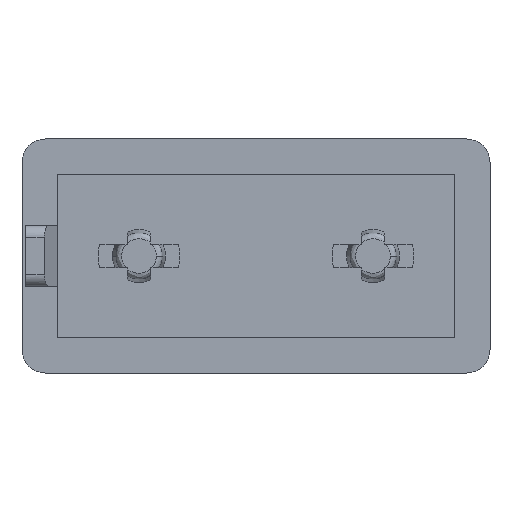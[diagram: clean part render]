
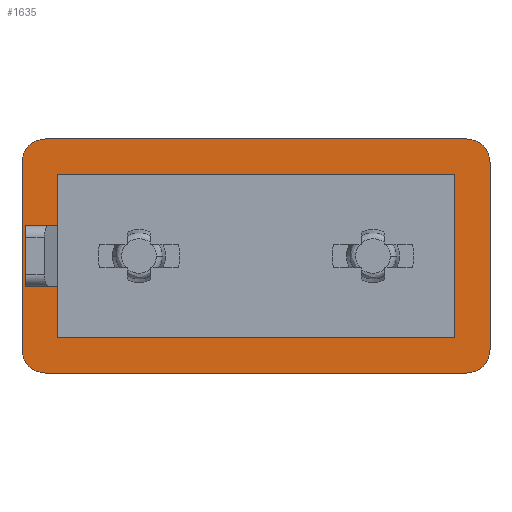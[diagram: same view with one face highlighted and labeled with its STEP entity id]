
A CAD part, front view. The second image highlights one B-rep face of the part: STEP entity #1635.
In plain terms, the highlighted planar face has unit normal (0, -1, 0).
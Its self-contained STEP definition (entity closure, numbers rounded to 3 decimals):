
#46 = VECTOR ( 'NONE', #1844, 1000. ) ;
#59 = AXIS2_PLACEMENT_3D ( 'NONE', #2890, #2808, #2833 ) ;
#77 = LINE ( 'NONE', #1681, #293 ) ;
#80 = CIRCLE ( 'NONE', #1576, 2. ) ;
#81 = CARTESIAN_POINT ( 'NONE',  ( -10., 1.771, 12.271 ) ) ;
#100 = VERTEX_POINT ( 'NONE', #1133 ) ;
#125 = CIRCLE ( 'NONE', #2638, 2. ) ;
#136 = CARTESIAN_POINT ( 'NONE',  ( -8., 1.771, 14.271 ) ) ;
#144 = CARTESIAN_POINT ( 'NONE',  ( -7., 1.771, 11.271 ) ) ;
#150 = DIRECTION ( 'NONE',  ( 1., 0., 0. ) ) ;
#170 = VECTOR ( 'NONE', #1743, 1000. ) ;
#174 = ORIENTED_EDGE ( 'NONE', *, *, #1776, .T. ) ;
#191 = VERTEX_POINT ( 'NONE', #2428 ) ;
#200 = EDGE_CURVE ( 'NONE', #1401, #2805, #1936, .T. ) ;
#214 = VERTEX_POINT ( 'NONE', #144 ) ;
#255 = VECTOR ( 'NONE', #292, 1000. ) ;
#270 = DIRECTION ( 'NONE',  ( 1., 0., 0. ) ) ;
#292 = DIRECTION ( 'NONE',  ( 1., 0., 0. ) ) ;
#293 = VECTOR ( 'NONE', #838, 1000. ) ;
#342 = CARTESIAN_POINT ( 'NONE',  ( 28., 1.771, 12.271 ) ) ;
#344 = CARTESIAN_POINT ( 'NONE',  ( 30., 1.771, 14.271 ) ) ;
#360 = VECTOR ( 'NONE', #1594, 1000. ) ;
#366 = LINE ( 'NONE', #1323, #2750 ) ;
#373 = VERTEX_POINT ( 'NONE', #2518 ) ;
#415 = CIRCLE ( 'NONE', #59, 2. ) ;
#432 = DIRECTION ( 'NONE',  ( 0., -1., 0. ) ) ;
#434 = VERTEX_POINT ( 'NONE', #649 ) ;
#466 = CARTESIAN_POINT ( 'NONE',  ( 27., 1.771, -5.729 ) ) ;
#470 = CARTESIAN_POINT ( 'NONE',  ( 27., 1.771, 11.271 ) ) ;
#500 = CARTESIAN_POINT ( 'NONE',  ( -7., 1.771, -5.729 ) ) ;
#634 = ORIENTED_EDGE ( 'NONE', *, *, #794, .T. ) ;
#640 = CARTESIAN_POINT ( 'NONE',  ( -8., 1.771, 12.271 ) ) ;
#649 = CARTESIAN_POINT ( 'NONE',  ( 30., 1.771, -3.729 ) ) ;
#691 = VERTEX_POINT ( 'NONE', #2481 ) ;
#711 = ORIENTED_EDGE ( 'NONE', *, *, #3022, .F. ) ;
#765 = VECTOR ( 'NONE', #2178, 1000. ) ;
#774 = DIRECTION ( 'NONE',  ( 1., 0., 0. ) ) ;
#792 = EDGE_CURVE ( 'NONE', #373, #1180, #2054, .T. ) ;
#794 = EDGE_CURVE ( 'NONE', #860, #922, #2859, .T. ) ;
#827 = ORIENTED_EDGE ( 'NONE', *, *, #200, .T. ) ;
#838 = DIRECTION ( 'NONE',  ( 1., 0., 0. ) ) ;
#840 = ORIENTED_EDGE ( 'NONE', *, *, #924, .T. ) ;
#860 = VERTEX_POINT ( 'NONE', #2444 ) ;
#922 = VERTEX_POINT ( 'NONE', #2614 ) ;
#924 = EDGE_CURVE ( 'NONE', #2934, #100, #1772, .T. ) ;
#928 = CARTESIAN_POINT ( 'NONE',  ( 30., 1.771, 1.671 ) ) ;
#986 = ORIENTED_EDGE ( 'NONE', *, *, #1119, .T. ) ;
#997 = EDGE_CURVE ( 'NONE', #214, #2284, #77, .T. ) ;
#1009 = LINE ( 'NONE', #2323, #360 ) ;
#1024 = CARTESIAN_POINT ( 'NONE',  ( -10., 1.771, 14.271 ) ) ;
#1053 = LINE ( 'NONE', #1024, #2865 ) ;
#1080 = EDGE_CURVE ( 'NONE', #1180, #1528, #1053, .T. ) ;
#1119 = EDGE_CURVE ( 'NONE', #3075, #191, #366, .T. ) ;
#1133 = CARTESIAN_POINT ( 'NONE',  ( -7., 1.771, 6.871 ) ) ;
#1135 = VECTOR ( 'NONE', #2177, 1000. ) ;
#1180 = VERTEX_POINT ( 'NONE', #1854 ) ;
#1209 = DIRECTION ( 'NONE',  ( -1., 0., 0. ) ) ;
#1216 = CARTESIAN_POINT ( 'NONE',  ( -7., 1.771, -2.729 ) ) ;
#1219 = DIRECTION ( 'NONE',  ( 1., 0., 0. ) ) ;
#1275 = VERTEX_POINT ( 'NONE', #81 ) ;
#1323 = CARTESIAN_POINT ( 'NONE',  ( -10., 1.771, -5.729 ) ) ;
#1352 = ORIENTED_EDGE ( 'NONE', *, *, #792, .T. ) ;
#1382 = EDGE_CURVE ( 'NONE', #1275, #691, #2964, .T. ) ;
#1396 = EDGE_CURVE ( 'NONE', #100, #214, #1009, .T. ) ;
#1401 = VERTEX_POINT ( 'NONE', #3058 ) ;
#1525 = ORIENTED_EDGE ( 'NONE', *, *, #2024, .T. ) ;
#1528 = VERTEX_POINT ( 'NONE', #136 ) ;
#1576 = AXIS2_PLACEMENT_3D ( 'NONE', #1678, #1691, #1704 ) ;
#1594 = DIRECTION ( 'NONE',  ( 0., 0., 1. ) ) ;
#1625 = VECTOR ( 'NONE', #2094, 1000. ) ;
#1635 = ADVANCED_FACE ( 'NONE', ( #2378, #2482 ), #2423, .T. ) ;
#1678 = CARTESIAN_POINT ( 'NONE',  ( -8., 1.771, -3.729 ) ) ;
#1681 = CARTESIAN_POINT ( 'NONE',  ( 30., 1.771, 11.271 ) ) ;
#1687 = ORIENTED_EDGE ( 'NONE', *, *, #1727, .T. ) ;
#1691 = DIRECTION ( 'NONE',  ( 0., -1., 0. ) ) ;
#1704 = DIRECTION ( 'NONE',  ( 1., 0., 0. ) ) ;
#1727 = EDGE_CURVE ( 'NONE', #2805, #860, #2032, .T. ) ;
#1743 = DIRECTION ( 'NONE',  ( -1., 0., 0. ) ) ;
#1768 = ORIENTED_EDGE ( 'NONE', *, *, #2594, .T. ) ;
#1772 = LINE ( 'NONE', #2903, #255 ) ;
#1776 = EDGE_CURVE ( 'NONE', #2284, #1401, #2531, .T. ) ;
#1796 = DIRECTION ( 'NONE',  ( 0., -1., 0. ) ) ;
#1826 = LINE ( 'NONE', #344, #46 ) ;
#1844 = DIRECTION ( 'NONE',  ( 0., 0., 1. ) ) ;
#1854 = CARTESIAN_POINT ( 'NONE',  ( 28., 1.771, 14.271 ) ) ;
#1889 = ORIENTED_EDGE ( 'NONE', *, *, #1396, .T. ) ;
#1936 = LINE ( 'NONE', #2895, #170 ) ;
#1937 = AXIS2_PLACEMENT_3D ( 'NONE', #2684, #1796, #774 ) ;
#1965 = CARTESIAN_POINT ( 'NONE',  ( -9.7, 1.771, 6.871 ) ) ;
#2024 = EDGE_CURVE ( 'NONE', #1528, #1275, #125, .T. ) ;
#2030 = ORIENTED_EDGE ( 'NONE', *, *, #997, .T. ) ;
#2032 = LINE ( 'NONE', #500, #765 ) ;
#2054 = CIRCLE ( 'NONE', #2322, 2. ) ;
#2056 = DIRECTION ( 'NONE',  ( 0., -1., 0. ) ) ;
#2094 = DIRECTION ( 'NONE',  ( -1., 0., 0. ) ) ;
#2115 = ORIENTED_EDGE ( 'NONE', *, *, #1080, .T. ) ;
#2121 = DIRECTION ( 'NONE',  ( 0., 0., -1. ) ) ;
#2129 = CARTESIAN_POINT ( 'NONE',  ( -9.7, 1.771, -5.729 ) ) ;
#2137 = EDGE_LOOP ( 'NONE', ( #1768, #1352, #2115, #1525, #2513, #2270, #986, #711 ) ) ;
#2177 = DIRECTION ( 'NONE',  ( 0., 0., 1. ) ) ;
#2178 = DIRECTION ( 'NONE',  ( 0., 0., 1. ) ) ;
#2229 = ORIENTED_EDGE ( 'NONE', *, *, #2967, .T. ) ;
#2270 = ORIENTED_EDGE ( 'NONE', *, *, #2861, .T. ) ;
#2284 = VERTEX_POINT ( 'NONE', #470 ) ;
#2322 = AXIS2_PLACEMENT_3D ( 'NONE', #342, #432, #270 ) ;
#2323 = CARTESIAN_POINT ( 'NONE',  ( -7., 1.771, -5.729 ) ) ;
#2378 = FACE_BOUND ( 'NONE', #2510, .T. ) ;
#2423 = PLANE ( 'NONE',  #1937 ) ;
#2428 = CARTESIAN_POINT ( 'NONE',  ( 28., 1.771, -5.729 ) ) ;
#2444 = CARTESIAN_POINT ( 'NONE',  ( -7., 1.771, 1.671 ) ) ;
#2459 = VECTOR ( 'NONE', #2121, 1000. ) ;
#2481 = CARTESIAN_POINT ( 'NONE',  ( -10., 1.771, -3.729 ) ) ;
#2482 = FACE_OUTER_BOUND ( 'NONE', #2137, .T. ) ;
#2507 = CARTESIAN_POINT ( 'NONE',  ( -8., 1.771, -5.729 ) ) ;
#2510 = EDGE_LOOP ( 'NONE', ( #174, #827, #1687, #634, #2229, #840, #1889, #2030 ) ) ;
#2512 = CARTESIAN_POINT ( 'NONE',  ( -10., 1.771, 14.271 ) ) ;
#2513 = ORIENTED_EDGE ( 'NONE', *, *, #1382, .T. ) ;
#2518 = CARTESIAN_POINT ( 'NONE',  ( 30., 1.771, 12.271 ) ) ;
#2531 = LINE ( 'NONE', #466, #2459 ) ;
#2580 = DIRECTION ( 'NONE',  ( 0., 0., -1. ) ) ;
#2594 = EDGE_CURVE ( 'NONE', #434, #373, #1826, .T. ) ;
#2614 = CARTESIAN_POINT ( 'NONE',  ( -9.7, 1.771, 1.671 ) ) ;
#2638 = AXIS2_PLACEMENT_3D ( 'NONE', #640, #2056, #150 ) ;
#2684 = CARTESIAN_POINT ( 'NONE',  ( 30., 1.771, -5.729 ) ) ;
#2750 = VECTOR ( 'NONE', #1219, 1000. ) ;
#2805 = VERTEX_POINT ( 'NONE', #1216 ) ;
#2808 = DIRECTION ( 'NONE',  ( 0., 1., 0. ) ) ;
#2833 = DIRECTION ( 'NONE',  ( 1., 0., 0. ) ) ;
#2859 = LINE ( 'NONE', #928, #1625 ) ;
#2861 = EDGE_CURVE ( 'NONE', #691, #3075, #80, .T. ) ;
#2865 = VECTOR ( 'NONE', #1209, 1000. ) ;
#2890 = CARTESIAN_POINT ( 'NONE',  ( 28., 1.771, -3.729 ) ) ;
#2895 = CARTESIAN_POINT ( 'NONE',  ( 30., 1.771, -2.729 ) ) ;
#2903 = CARTESIAN_POINT ( 'NONE',  ( 30., 1.771, 6.871 ) ) ;
#2934 = VERTEX_POINT ( 'NONE', #1965 ) ;
#2964 = LINE ( 'NONE', #2512, #3033 ) ;
#2967 = EDGE_CURVE ( 'NONE', #922, #2934, #3006, .T. ) ;
#3006 = LINE ( 'NONE', #2129, #1135 ) ;
#3022 = EDGE_CURVE ( 'NONE', #434, #191, #415, .T. ) ;
#3033 = VECTOR ( 'NONE', #2580, 1000. ) ;
#3058 = CARTESIAN_POINT ( 'NONE',  ( 27., 1.771, -2.729 ) ) ;
#3075 = VERTEX_POINT ( 'NONE', #2507 ) ;
